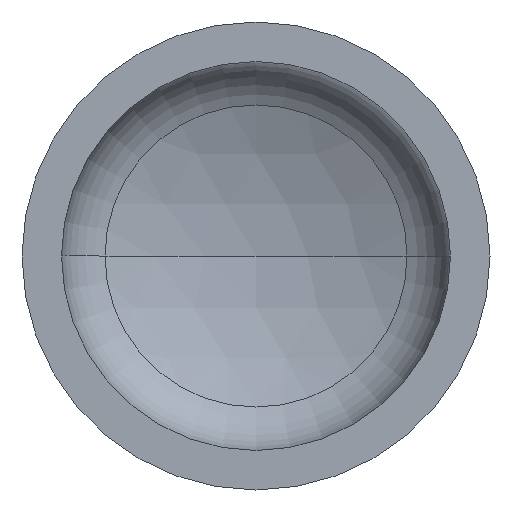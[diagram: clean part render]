
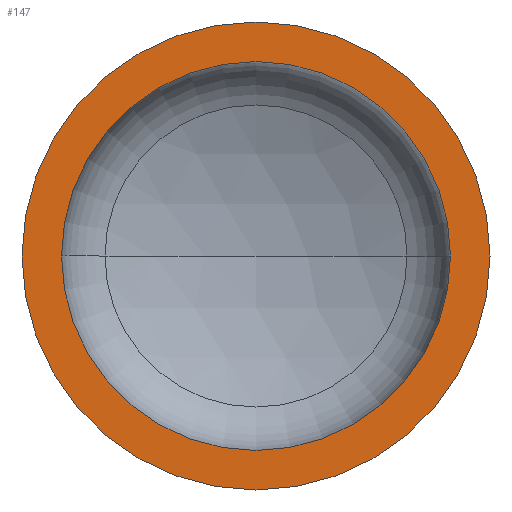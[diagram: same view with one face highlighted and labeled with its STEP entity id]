
A CAD part, front view. The second image highlights one B-rep face of the part: STEP entity #147.
In plain terms, the highlighted planar face has unit normal (0, -1, 0).
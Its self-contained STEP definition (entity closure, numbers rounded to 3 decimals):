
#11 = EDGE_LOOP ( 'NONE', ( #112, #146 ) ) ;
#21 = AXIS2_PLACEMENT_3D ( 'NONE', #219, #216, #218 ) ;
#26 = VERTEX_POINT ( 'NONE', #356 ) ;
#40 = ORIENTED_EDGE ( 'NONE', *, *, #339, .F. ) ;
#46 = FACE_OUTER_BOUND ( 'NONE', #11, .T. ) ;
#50 = VERTEX_POINT ( 'NONE', #243 ) ;
#55 = AXIS2_PLACEMENT_3D ( 'NONE', #294, #300, #298 ) ;
#64 = AXIS2_PLACEMENT_3D ( 'NONE', #353, #358, #366 ) ;
#66 = EDGE_LOOP ( 'NONE', ( #205, #40 ) ) ;
#78 = VERTEX_POINT ( 'NONE', #230 ) ;
#93 = EDGE_CURVE ( 'NONE', #26, #78, #386, .T. ) ;
#94 = EDGE_CURVE ( 'NONE', #50, #130, #98, .T. ) ;
#98 = CIRCLE ( 'NONE', #55, 374. ) ;
#112 = ORIENTED_EDGE ( 'NONE', *, *, #354, .T. ) ;
#129 = CIRCLE ( 'NONE', #223, 450. ) ;
#130 = VERTEX_POINT ( 'NONE', #359 ) ;
#141 = CARTESIAN_POINT ( 'NONE',  ( 0., 0., 0. ) ) ;
#144 = DIRECTION ( 'NONE',  ( 0., -1., 0. ) ) ;
#146 = ORIENTED_EDGE ( 'NONE', *, *, #93, .T. ) ;
#147 = ADVANCED_FACE ( 'NONE', ( #370, #46 ), #276, .F. ) ;
#154 = AXIS2_PLACEMENT_3D ( 'NONE', #171, #235, #400 ) ;
#164 = DIRECTION ( 'NONE',  ( 1., 0., 0. ) ) ;
#171 = CARTESIAN_POINT ( 'NONE',  ( 0., 0., 0. ) ) ;
#205 = ORIENTED_EDGE ( 'NONE', *, *, #94, .F. ) ;
#216 = DIRECTION ( 'NONE',  ( 0., 1., 0. ) ) ;
#218 = DIRECTION ( 'NONE',  ( -1., 0., 0. ) ) ;
#219 = CARTESIAN_POINT ( 'NONE',  ( -450., 0., 0. ) ) ;
#223 = AXIS2_PLACEMENT_3D ( 'NONE', #141, #144, #164 ) ;
#230 = CARTESIAN_POINT ( 'NONE',  ( 450., 0., 0. ) ) ;
#235 = DIRECTION ( 'NONE',  ( 0., -1., 0. ) ) ;
#243 = CARTESIAN_POINT ( 'NONE',  ( 374., 0., 0. ) ) ;
#275 = CIRCLE ( 'NONE', #154, 374. ) ;
#276 = PLANE ( 'NONE',  #21 ) ;
#294 = CARTESIAN_POINT ( 'NONE',  ( 0., 0., 0. ) ) ;
#298 = DIRECTION ( 'NONE',  ( 1., 0., 0. ) ) ;
#300 = DIRECTION ( 'NONE',  ( 0., -1., 0. ) ) ;
#339 = EDGE_CURVE ( 'NONE', #130, #50, #275, .T. ) ;
#353 = CARTESIAN_POINT ( 'NONE',  ( 0., 0., 0. ) ) ;
#354 = EDGE_CURVE ( 'NONE', #78, #26, #129, .T. ) ;
#356 = CARTESIAN_POINT ( 'NONE',  ( -450., 0., 0. ) ) ;
#358 = DIRECTION ( 'NONE',  ( 0., -1., 0. ) ) ;
#359 = CARTESIAN_POINT ( 'NONE',  ( -374., 0., 0. ) ) ;
#366 = DIRECTION ( 'NONE',  ( 1., 0., 0. ) ) ;
#370 = FACE_BOUND ( 'NONE', #66, .T. ) ;
#386 = CIRCLE ( 'NONE', #64, 450. ) ;
#400 = DIRECTION ( 'NONE',  ( 1., 0., 0. ) ) ;
